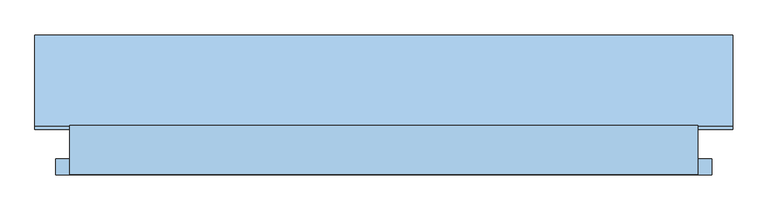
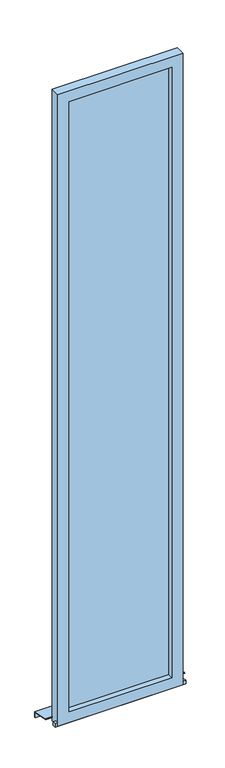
"""IFC4 building model written with IfcOpenShell, lengths in millimetres: window geometry, RFAM2316_Window-10 : Window  FIX(0.92х4.8(h))."""

from ifc_helpers import new_model, si_unit, frame, origin, place, context, project, spatial, polyline, outline, extrude, source, transform, mapped, element, save


def window_9bf5e63c(model_context):
    return source(origin(), model_context, "Body", "SweptSolid", [
        extrude(outline(polyline([(626.8584094, -65.9407167), (626.8584094, -73.9407167), (-113.1415906, -73.9407167), (-113.1415906, -65.9407167), (626.8584094, -65.9407167)])), frame((0.0, 0.0, 980.0), z_axis=(0.0, 0.0, 1.0), x_axis=(1.0, 0.0, 0.0)), (0.0, 0.0, 1.0), 4630.0),
        extrude(outline(polyline([(5690.0, 706.8584094), (5690.0, -193.1415906), (900.0, -193.1415906), (900.0, 706.8584094), (5690.0, 706.8584094)]), holes=[polyline([(5610.0, -113.1415906), (5610.0, 626.8584094), (980.0, 626.8584094), (980.0, -113.1415906), (5610.0, -113.1415906)])]), frame((0.0, -114.9407167, 0.0), z_axis=(0.0, 1.0, 0.0), x_axis=(0.0, 0.0, 1.0)), (0.0, 0.0, 1.0), 70.0),
        extrude(outline(polyline([(-44.9407167, 932.632353), (85.0592833, 905.0), (85.0592833, 865.0), (80.0592833, 865.0), (80.0592833, 900.9510798), (-49.9407167, 928.5834329), (-49.9407167, 930.0), (-44.9407167, 930.0), (-44.9407167, 932.632353)])), frame((-243.1415906, 0.0, 0.0), z_axis=(1.0, 0.0, 0.0), x_axis=(0.0, 1.0, 0.0)), (0.0, 0.0, 1.0), 1000.0),
        extrude(outline(polyline([(-213.1415906, -114.9407167), (-213.1415906, -91.9407167), (726.8584094, -91.9407167), (726.8584094, -114.9407167), (-213.1415906, -114.9407167)])), frame((0.0, 0.0, 900.0), z_axis=(0.0, 0.0, 1.0), x_axis=(1.0, 0.0, 0.0)), (0.0, 0.0, 1.0), 25.0),
    ])


if __name__ == "__main__":
    model = new_model("IFC4")
    model_context = context("Model", 3, world=origin())
    ifc_project = project(units=[si_unit("LENGTHUNIT", "METRE", prefix="MILLI")], contexts=[model_context])
    site = spatial("IfcSite", under=ifc_project)
    building = spatial("IfcBuilding", under=site)
    placement = place(None, origin())
    window_shape = window_9bf5e63c(model_context)
    element("IfcWindow", 1, ObjectType="RFAM2316_Window-10 : Window  FIX(0.92х4.8(h))", at=placement, inside=building, context=model_context, shape_type="MappedRepresentation", body=[
        mapped(window_shape, transform((0.0, 0.0, 0.0), x_axis=(1.0, 0.0, 0.0), y_axis=(0.0, 1.0, 0.0), z_axis=(0.0, 0.0, 1.0))),
    ])
    save(model, "model.ifc")
